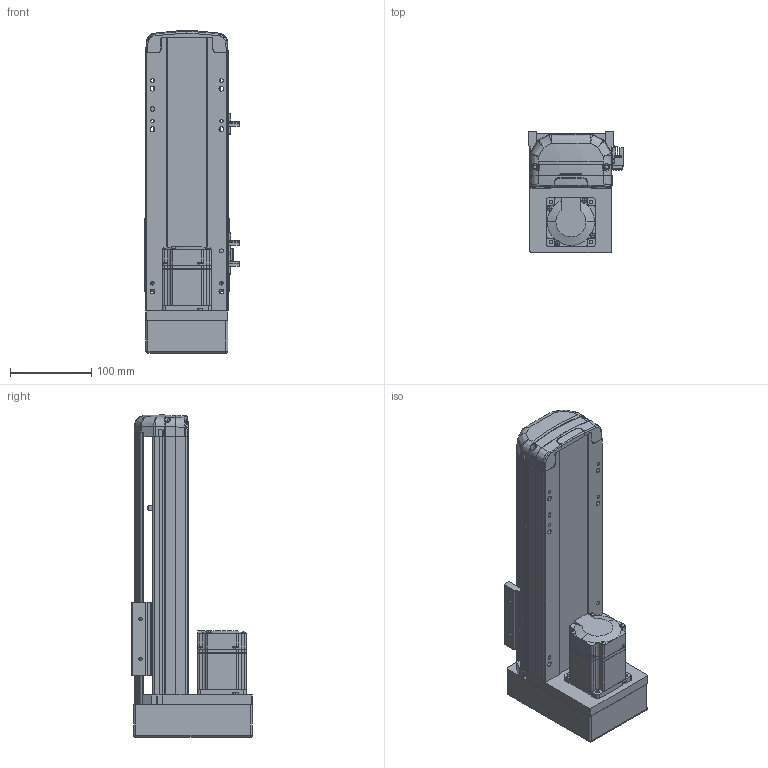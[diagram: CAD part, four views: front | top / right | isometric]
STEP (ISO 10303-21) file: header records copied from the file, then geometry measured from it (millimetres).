
FILE_DESCRIPTION (( 'STEP AP214' ), '1' );
FILE_NAME ('RTH10-XX-150-M-M20-C4.STEP', '2025-10-25T04:03:15', ( 'Microsoft' ), ( 'Microsoft' ), 'SwSTEP 2.0', 'SolidWorks 2018', '' );
FILE_SCHEMA (( 'AUTOMOTIVE_DESIGN' ));
Length unit declared in the file: millimetre
Products named in the file (10): N_RTH12-M-011P-臏倰第菁釱^RTH10-XX-XX-M-M20-C4; N_RTH12-M-008-萇儂啣^RTH10-XX-XX-M-M20-C4; N_RTH12-GY-004-賑釱^RTH10-XX-XX-M-M20-C4; N_200W-1^RTH10-XX-XX-M-M20-C4; N_RTH12-M-018-裔赽^RTH10-XX-XX-M-M20-C4; N_RTH12-GY-001P^RTH10-XX-XX-M-M20-C4; RTH10-XX-150-M-M20-C4; N_RTH13-L-012覜茼え俋离^RTH10-XX-XX-M-M20-C4; N_OMRON EE-SX672 传感器^RTH10-XX-XX-M-M20-C4; N_RTH12-M-007P-奻裔^RTH10-XX-XX-M-M20-C4
Assembly tree (11 placements, depth 2):
  RTH10-XX-150-M-M20-C4
    N_RTH12-M-011P-臏倰第菁釱^RTH10-XX-XX-M-M20-C4
    N_RTH13-L-012覜茼え俋离^RTH10-XX-XX-M-M20-C4
    N_OMRON EE-SX672 传感器^RTH10-XX-XX-M-M20-C4  x3
    N_200W-1^RTH10-XX-XX-M-M20-C4
    N_RTH12-M-007P-奻裔^RTH10-XX-XX-M-M20-C4
    N_RTH12-M-008-萇儂啣^RTH10-XX-XX-M-M20-C4
    N_RTH12-M-018-裔赽^RTH10-XX-XX-M-M20-C4
    N_RTH12-GY-004-賑釱^RTH10-XX-XX-M-M20-C4
    N_RTH12-GY-001P^RTH10-XX-XX-M-M20-C4
Bounding box: 116.5 x 149 x 397.31 mm (x, y, z)
Volume: 2424461.8 mm3; surface area: 369518.5 mm2
Topology: 10 solids, 12 shells, 1949 faces, 5416 edges, 3555 vertices
Faces by surface type: plane 983, bspline 472, cylinder 459, cone 29, sphere 4, torus 2
Entity records: 58302 total; most frequent: CARTESIAN_POINT 23011, ORIENTED_EDGE 7904, DIRECTION 6086, EDGE_CURVE 3958, VERTEX_POINT 2599, VECTOR 2146, LINE 2146, AXIS2_PLACEMENT_3D 1970
